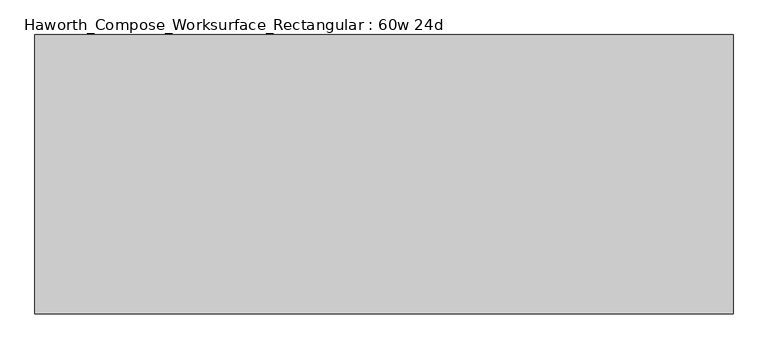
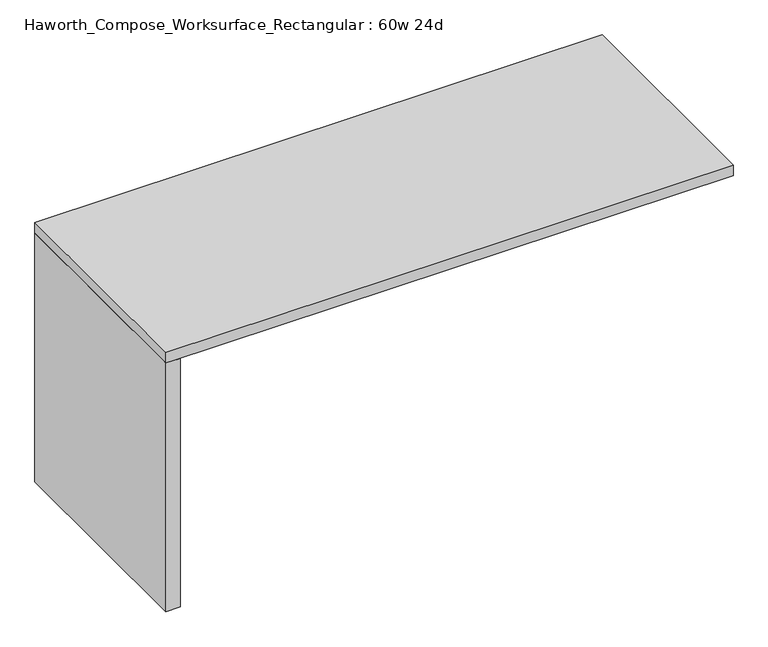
"""IFC4 building model written with IfcOpenShell, lengths in millimetres: furniture geometry, Haworth_Compose_Worksurface_Rectangular : 60w 24d."""

from ifc_helpers import new_model, si_unit, frame, origin, origin_with_axes, place, context, project, spatial, polyline, outline, extrude, source, transform, mapped, element, save


def haworth_compose_worksurface_rectangular_60w_24d_3e0ca9f9(model_context):
    return source(origin(), model_context, "Body", "SweptSolid", [
        extrude(outline(polyline([(-723.9, 304.8), (-723.9, -304.8), (-762.0, -304.8), (-762.0, 304.8), (-723.9, 304.8)])), origin_with_axes(), (0.0, 0.0, 1.0), 706.4375),
        extrude(outline(polyline([(762.0, 304.8), (762.0, -304.8), (-762.0, -304.8), (-762.0, 304.8), (762.0, 304.8)])), frame((0.0, 0.0, 706.4375), z_axis=(0.0, 0.0, 1.0), x_axis=(1.0, 0.0, 0.0)), (0.0, 0.0, 1.0), 30.1625),
    ])


if __name__ == "__main__":
    model = new_model("IFC4")
    model_context = context("Model", 3, world=origin())
    ifc_project = project(units=[si_unit("LENGTHUNIT", "METRE", prefix="MILLI")], contexts=[model_context])
    site = spatial("IfcSite", under=ifc_project)
    building = spatial("IfcBuilding", under=site)
    placement = place(None, origin())
    haworth_compose_worksurface_rectangular_60w_24d_shape = haworth_compose_worksurface_rectangular_60w_24d_3e0ca9f9(model_context)
    element("IfcFurniture", 1, ObjectType="Haworth_Compose_Worksurface_Rectangular : 60w 24d", at=placement, inside=building, context=model_context, shape_type="MappedRepresentation", body=[
        mapped(haworth_compose_worksurface_rectangular_60w_24d_shape, transform((0.0, 0.0, 0.0), x_axis=(1.0, 0.0, 0.0), y_axis=(0.0, 1.0, 0.0), z_axis=(0.0, 0.0, 1.0))),
    ])
    save(model, "model.ifc")
